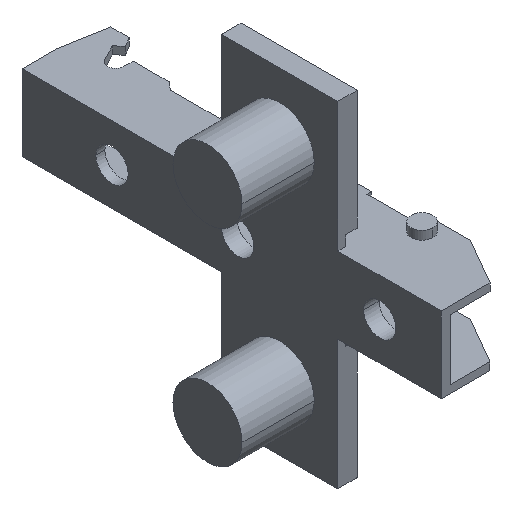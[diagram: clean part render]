
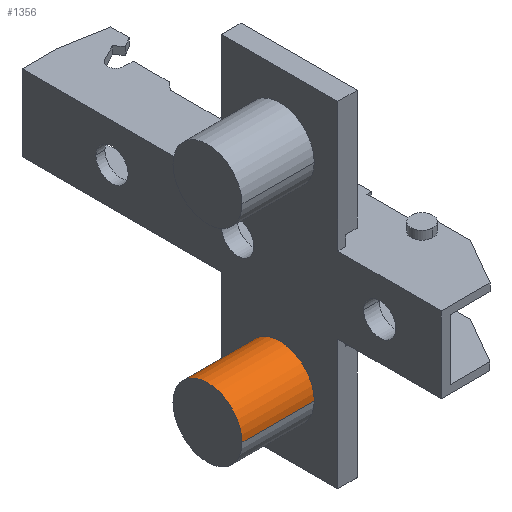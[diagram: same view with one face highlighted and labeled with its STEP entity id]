
A CAD part, isometric view. The second image highlights one B-rep face of the part: STEP entity #1356.
In plain terms, the highlighted cylindrical face has radius 5.35 mm (diameter 10.7 mm), a partial arc.
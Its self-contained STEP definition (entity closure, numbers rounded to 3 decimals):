
#64 = EDGE_LOOP ( 'NONE', ( #1478, #1546, #1449, #1538 ) ) ;
#94 = CARTESIAN_POINT ( 'NONE',  ( 0., 0., -16. ) ) ;
#100 = DIRECTION ( 'NONE',  ( -1., 0., 0. ) ) ;
#101 = DIRECTION ( 'NONE',  ( 0., 1., 0. ) ) ;
#120 = CARTESIAN_POINT ( 'NONE',  ( -11.2, 0., -16. ) ) ;
#145 = DIRECTION ( 'NONE',  ( 1., 0., 0. ) ) ;
#146 = DIRECTION ( 'NONE',  ( 0., -1., 0. ) ) ;
#176 = CARTESIAN_POINT ( 'NONE',  ( -11.2, -5.35, -16. ) ) ;
#205 = CARTESIAN_POINT ( 'NONE',  ( -11.2, 5.35, -16. ) ) ;
#210 = CARTESIAN_POINT ( 'NONE',  ( 0., 5.35, -16. ) ) ;
#291 = DIRECTION ( 'NONE',  ( 1., 0., 0. ) ) ;
#339 = CARTESIAN_POINT ( 'NONE',  ( -11.2, 5.35, -16. ) ) ;
#431 = DIRECTION ( 'NONE',  ( -1., 0., 0. ) ) ;
#436 = DIRECTION ( 'NONE',  ( 0., 1., 0. ) ) ;
#490 = CARTESIAN_POINT ( 'NONE',  ( -11.2, 0., -16. ) ) ;
#678 = VERTEX_POINT ( 'NONE', #176 ) ;
#679 = VERTEX_POINT ( 'NONE', #210 ) ;
#680 = CARTESIAN_POINT ( 'NONE',  ( 0., -5.35, -16. ) ) ;
#684 = VERTEX_POINT ( 'NONE', #205 ) ;
#701 = VERTEX_POINT ( 'NONE', #680 ) ;
#1189 = CARTESIAN_POINT ( 'NONE',  ( -11.2, -5.35, -16. ) ) ;
#1193 = DIRECTION ( 'NONE',  ( 1., 0., 0. ) ) ;
#1356 = ADVANCED_FACE ( 'NONE', ( #2440 ), #2441, .T. ) ;
#1432 = LINE ( 'NONE', #1189, #1435 ) ;
#1435 = VECTOR ( 'NONE', #1193, 1000. ) ;
#1449 = ORIENTED_EDGE ( 'NONE', *, *, #2551, .T. ) ;
#1478 = ORIENTED_EDGE ( 'NONE', *, *, #2764, .F. ) ;
#1538 = ORIENTED_EDGE ( 'NONE', *, *, #2811, .T. ) ;
#1546 = ORIENTED_EDGE ( 'NONE', *, *, #2844, .F. ) ;
#1668 = CIRCLE ( 'NONE', #2738, 5.35 ) ;
#1692 = CIRCLE ( 'NONE', #2659, 5.35 ) ;
#1766 = LINE ( 'NONE', #339, #1829 ) ;
#1829 = VECTOR ( 'NONE', #291, 1000. ) ;
#2440 = FACE_OUTER_BOUND ( 'NONE', #64, .T. ) ;
#2441 = CYLINDRICAL_SURFACE ( 'NONE', #2785, 5.35 ) ;
#2551 = EDGE_CURVE ( 'NONE', #678, #701, #1432, .T. ) ;
#2659 = AXIS2_PLACEMENT_3D ( 'NONE', #120, #431, #436 ) ;
#2738 = AXIS2_PLACEMENT_3D ( 'NONE', #94, #100, #101 ) ;
#2764 = EDGE_CURVE ( 'NONE', #684, #679, #1766, .T. ) ;
#2785 = AXIS2_PLACEMENT_3D ( 'NONE', #490, #145, #146 ) ;
#2811 = EDGE_CURVE ( 'NONE', #701, #679, #1668, .T. ) ;
#2844 = EDGE_CURVE ( 'NONE', #678, #684, #1692, .T. ) ;
